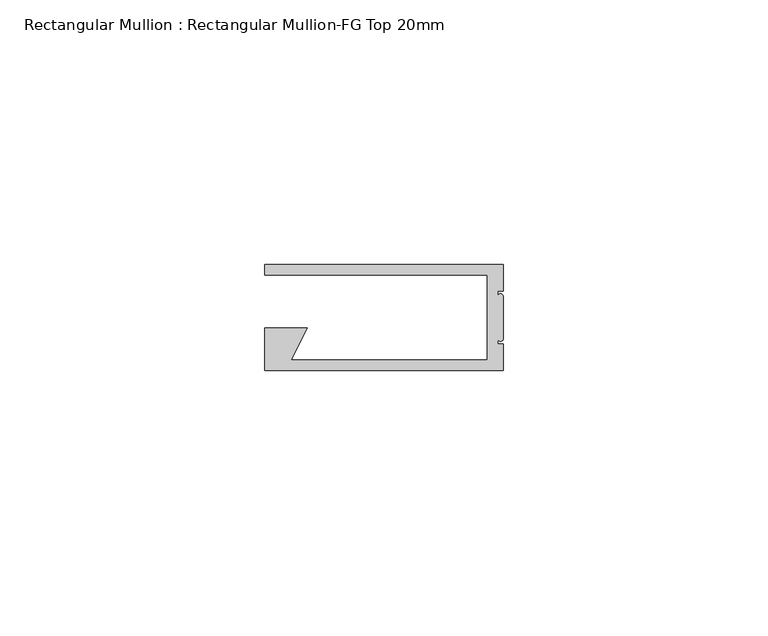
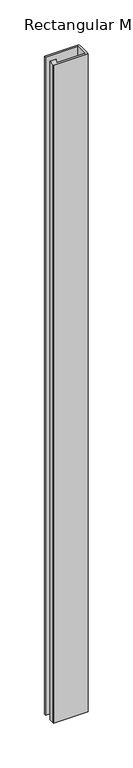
"""IFC4 building model written with IfcOpenShell, lengths in millimetres: member geometry, Rectangular Mullion : Rectangular Mullion-FG Top 20mm."""

from ifc_helpers import new_model, si_unit, frame, origin, place, context, project, spatial, circle_curve, source, transform, mapped, element, save
from ifc_brep_helpers import plane_surface, cylinder_surface, advanced_brep


def rectangular_mullion_rectangular_mullion_fg_top_20mm_ac938a26(model_context):
    return source(origin(), model_context, "Body", "AdvancedBrep", [
        advanced_brep(
        [(0.0, -5.0, 0.0), (0.0, 0.0, 0.0), (-45.0, 0.0, 0.0), (-45.0, -2.0, 0.0), (-3.0, -2.0, 0.0), (-3.0, -18.0, 0.0), (-40.0, -18.0, 0.0), (-37.0, -12.0, 0.0), (-45.0, -12.0, 0.0), (-45.0, -18.0, 0.0), (-45.0, -20.0, 0.0), (0.0, -20.0, 0.0), (0.0, -15.0, 0.0), (-1.0, -15.0, 0.0), (-1.0, -14.0, 0.0), (0.0, -14.0, 0.0), (0.0, -6.0, 0.0), (-1.0, -6.0, 0.0), (-1.0, -5.0, 0.0), (0.0, -5.0, -900.0), (-1.0, -5.0, -900.0), (-1.0, -6.0, -900.0), (0.0, -6.0, -900.0), (0.0, -14.0, -900.0), (-1.0, -14.0, -900.0), (-1.0, -15.0, -900.0), (0.0, -15.0, -900.0), (0.0, -20.0, -900.0), (-45.0, -20.0, -900.0), (-45.0, -18.0, -900.0), (-45.0, -12.0, -900.0), (-37.0, -12.0, -900.0), (-40.0, -18.0, -900.0), (-3.0, -18.0, -900.0), (-3.0, -2.0, -900.0), (-45.0, -2.0, -900.0), (-45.0, 0.0, -900.0), (0.0, 0.0, -900.0)],
        [
            (0, 1),
            (1, 2),
            (2, 3),
            (3, 4),
            (4, 5),
            (5, 6),
            (6, 7),
            (7, 8),
            (8, 9),
            (9, 10),
            (10, 11),
            (11, 12),
            (12, 13),
            (13, 14),
            (14, 15, circle_curve(frame((-0.5, -14.0, 0.0), z_axis=(0.0, 0.0, 1.0), x_axis=(1.0, 0.0, 0.0)), 0.5)),
            (15, 16),
            (16, 17, circle_curve(frame((-0.5, -6.0, 0.0), z_axis=(0.0, 0.0, 1.0), x_axis=(1.0, 0.0, 0.0)), 0.5)),
            (17, 18),
            (18, 0),
            (19, 20),
            (20, 21),
            (21, 22, circle_curve(frame((-0.5, -6.0, -900.0), z_axis=(0.0, 0.0, -1.0), x_axis=(1.0, 0.0, 0.0)), 0.5)),
            (22, 23),
            (23, 24, circle_curve(frame((-0.5, -14.0, -900.0), z_axis=(0.0, 0.0, -1.0), x_axis=(1.0, 0.0, 0.0)), 0.5)),
            (24, 25),
            (25, 26),
            (26, 27),
            (27, 28),
            (28, 29),
            (29, 30),
            (30, 31),
            (31, 32),
            (32, 33),
            (33, 34),
            (34, 35),
            (35, 36),
            (36, 37),
            (37, 19),
            (0, 19),
            (37, 1),
            (36, 2),
            (35, 3),
            (34, 4),
            (33, 5),
            (32, 6),
            (31, 7),
            (30, 8),
            (29, 9),
            (28, 10),
            (27, 11),
            (26, 12),
            (25, 13),
            (24, 14),
            (23, 15),
            (22, 16),
            (21, 17),
            (20, 18),
        ],
        [
            plane_surface(frame((0.0, -49.244289, 0.0), z_axis=(0.0, 0.0, 1.0), x_axis=(-1.0, 0.0, 0.0))),
            plane_surface(frame((0.0, -49.244289, -900.0), z_axis=(0.0, 0.0, -1.0), x_axis=(-1.0, 0.0, 0.0))),
            plane_surface(frame((0.0, -5.0, 0.0), z_axis=(1.0, 0.0, 0.0), x_axis=(0.0, 0.0, -1.0))),
            plane_surface(frame((0.0, 0.0, 0.0), z_axis=(0.0, 1.0, 0.0), x_axis=(0.0, 0.0, -1.0))),
            plane_surface(frame((-45.0, 0.0, 0.0), z_axis=(-1.0, 0.0, 0.0), x_axis=(0.0, 0.0, -1.0))),
            plane_surface(frame((-45.0, -2.0, 0.0), z_axis=(0.0, -1.0, 0.0), x_axis=(0.0, 0.0, -1.0))),
            plane_surface(frame((-3.0, -2.0, 0.0), z_axis=(-1.0, 0.0, 0.0), x_axis=(0.0, 0.0, -1.0))),
            plane_surface(frame((-3.0, -18.0, 0.0), z_axis=(0.0, 1.0, 0.0), x_axis=(0.0, 0.0, -1.0))),
            plane_surface(frame((-40.0, -18.0, 0.0), z_axis=(0.8944271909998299, -0.4472135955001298, 0.0), x_axis=(0.0, 0.0, -1.0))),
            plane_surface(frame((-37.0, -12.0, 0.0), z_axis=(0.0, 1.0, 0.0), x_axis=(0.0, 0.0, -1.0))),
            plane_surface(frame((-45.0, -12.0, 0.0), z_axis=(-1.0, 0.0, 0.0), x_axis=(0.0, 0.0, -1.0))),
            plane_surface(frame((-45.0, -18.0, 0.0), z_axis=(-1.0, 0.0, 0.0), x_axis=(0.0, 0.0, -1.0))),
            plane_surface(frame((-45.0, -20.0, 0.0), z_axis=(0.0, -1.0, 0.0), x_axis=(0.0, 0.0, -1.0))),
            plane_surface(frame((0.0, -20.0, 0.0), z_axis=(1.0, 0.0, 0.0), x_axis=(0.0, 0.0, -1.0))),
            plane_surface(frame((0.0, -15.0, 0.0), z_axis=(0.0, 1.0, 0.0), x_axis=(0.0, 0.0, -1.0))),
            plane_surface(frame((-1.0, -15.0, 0.0), z_axis=(1.0, 0.0, 0.0), x_axis=(0.0, 0.0, -1.0))),
            cylinder_surface(frame((-0.5, -14.0, 0.0), z_axis=(0.0, 0.0, 1.0), x_axis=(1.0, 0.0, 0.0)), 0.5),
            plane_surface(frame((0.0, -14.0, 0.0), z_axis=(1.0, 0.0, 0.0), x_axis=(0.0, 0.0, -1.0))),
            cylinder_surface(frame((-0.5, -6.0, 0.0), z_axis=(0.0, 0.0, 1.0), x_axis=(1.0, 0.0, 0.0)), 0.5),
            plane_surface(frame((-1.0, -6.0, 0.0), z_axis=(1.0, 0.0, 0.0), x_axis=(0.0, 0.0, -1.0))),
            plane_surface(frame((-1.0, -5.0, 0.0), z_axis=(0.0, -1.0, 0.0), x_axis=(0.0, 0.0, -1.0))),
        ],
        [
            (0, [[1, 2, 3, 4, 5, 6, 7, 8, 9, 10, 11, 12, 13, 14, 15, 16, 17, 18, 19]]),
            (1, [[20, 21, 22, 23, 24, 25, 26, 27, 28, 29, 30, 31, 32, 33, 34, 35, 36, 37, 38]]),
            (2, [[-1, 39, -38, 40]]),
            (3, [[-2, -40, -37, 41]]),
            (4, [[-3, -41, -36, 42]]),
            (5, [[-4, -42, -35, 43]]),
            (6, [[-5, -43, -34, 44]]),
            (7, [[-6, -44, -33, 45]]),
            (8, [[-7, -45, -32, 46]]),
            (9, [[-8, -46, -31, 47]]),
            (10, [[-9, -47, -30, 48]]),
            (11, [[-10, -48, -29, 49]]),
            (12, [[-11, -49, -28, 50]]),
            (13, [[-12, -50, -27, 51]]),
            (14, [[-13, -51, -26, 52]]),
            (15, [[-14, -52, -25, 53]]),
            (16, [[-15, -53, -24, 54]]),
            (17, [[-16, -54, -23, 55]]),
            (18, [[-17, -55, -22, 56]]),
            (19, [[-18, -56, -21, 57]]),
            (20, [[-19, -57, -20, -39]]),
        ],
    ),
    ])


if __name__ == "__main__":
    model = new_model("IFC4")
    model_context = context("Model", 3, world=origin())
    ifc_project = project(units=[si_unit("LENGTHUNIT", "METRE", prefix="MILLI")], contexts=[model_context])
    site = spatial("IfcSite", under=ifc_project)
    building = spatial("IfcBuilding", under=site)
    placement = place(None, origin())
    rectangular_mullion_rectangular_mullion_fg_top_20mm_shape = rectangular_mullion_rectangular_mullion_fg_top_20mm_ac938a26(model_context)
    element("IfcMember", 1, ObjectType="Rectangular Mullion : Rectangular Mullion-FG Top 20mm", at=placement, inside=building, context=model_context, shape_type="MappedRepresentation", body=[
        mapped(rectangular_mullion_rectangular_mullion_fg_top_20mm_shape, transform((0.0, 0.0, 0.0), x_axis=(1.0, 0.0, 0.0), y_axis=(0.0, 1.0, 0.0), z_axis=(0.0, 0.0, 1.0))),
    ])
    save(model, "model.ifc")
